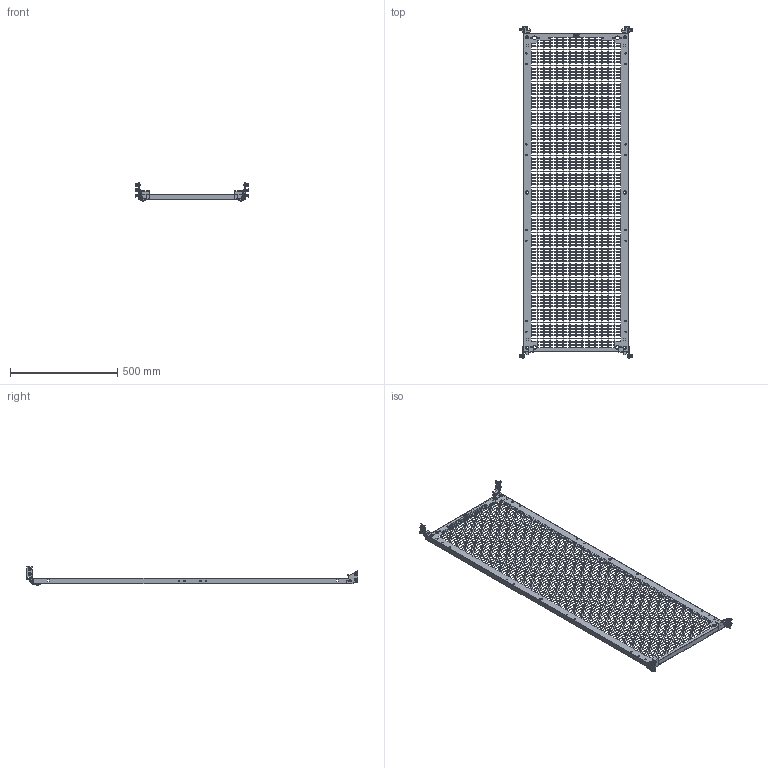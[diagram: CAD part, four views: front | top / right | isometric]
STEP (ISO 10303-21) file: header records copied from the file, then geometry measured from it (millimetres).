
FILE_DESCRIPTION (( 'STEP AP203' ), '1' );
FILE_NAME ('R5NPCEP1660.STEP', '2025-03-26T09:00:44', ( '' ), ( '' ), 'SwSTEP 2.0', 'SolidWorks 2022', '' );
FILE_SCHEMA (( 'CONFIG_CONTROL_DESIGN' ));
Length unit declared in the file: millimetre
Products named in the file (20): M6 MGR-MKO-0625_1,5mm (thread); RB.2628.00.00.0_-14; RB.2684.00.00.0 СБ_-01; RB.2697.00.00.0; RB.2814.00.00.0 СБ; М6 D87181 Zinc_In a tightened position (1.5 mm); RB.2684.00.00.0 СБ; R5NPCEP1660; RB.1499.00.03.0; RB.2814.00.01.0; RB.2709.00.00.0; RB.2684.00.01.0_-01; RB.2684.00.01.0; AC00C237; RB.2814.00.00.0 СБ_-01; RB.2814.00.01.0_-01; M6x16 DIN 7985 Torx cl.8,8 Zinc_stright; 003-006-19 GOST 9833-73; RB.2684.00.03.0; M6x16 DIN 912 HX cl.4,8 Zinc_thread
Assembly tree (43 placements, depth 3):
  R5NPCEP1660
    RB.2628.00.00.0_-14
    RB.2814.00.00.0 СБ_-01
      RB.2814.00.01.0_-01
      M6 MGR-MKO-0625_1,5mm (thread)
    RB.2814.00.00.0 СБ
      RB.2814.00.01.0
      M6 MGR-MKO-0625_1,5mm (thread)
    M6x16 DIN 912 HX cl.4,8 Zinc_thread  x2
    AC00C237  x2
    RB.2684.00.00.0 СБ_-01
      RB.2684.00.01.0_-01
      RB.2684.00.03.0
      RB.1499.00.03.0
      RB.2697.00.00.0
      003-006-19 GOST 9833-73  x2
    RB.2684.00.00.0 СБ
      RB.2684.00.01.0
      RB.2684.00.03.0
      RB.1499.00.03.0
      003-006-19 GOST 9833-73  x2
      RB.2697.00.00.0
    M6x16 DIN 7985 Torx cl.8,8 Zinc_stright  x8
    М6 D87181 Zinc_In a tightened position (1.5 mm)  x8
    RB.2709.00.00.0  x2
Bounding box: 528.3 x 1550.46 x 84.5 mm (x, y, z)
Volume: 1309547 mm3; surface area: 1315037.9 mm2
Topology: 39 solids, 39 shells, 7659 faces, 22221 edges, 14571 vertices
Faces by surface type: plane 6518, cylinder 514, bspline 301, cone 186, torus 132, sphere 8
Full cylindrical faces by diameter (mm): 0.6 x12, 2.3 x4, 2.5 x4, 3.8 x6, 4 x2, 4.2 x4, 4.92 x14, 5 x16, 6 x60, 6.5 x8, 6.7 x2, 7 x12, 7.5 x2, 8 x4, 8.3 x8, 9 x6, 10 x4, 12 x26, 15 x6
Entity records: 214567 total; most frequent: CARTESIAN_POINT 40895, ORIENTED_EDGE 36324, DIRECTION 30843, EDGE_CURVE 18162, LINE 17533, VECTOR 17533, VERTEX_POINT 12176, EDGE_LOOP 9310
